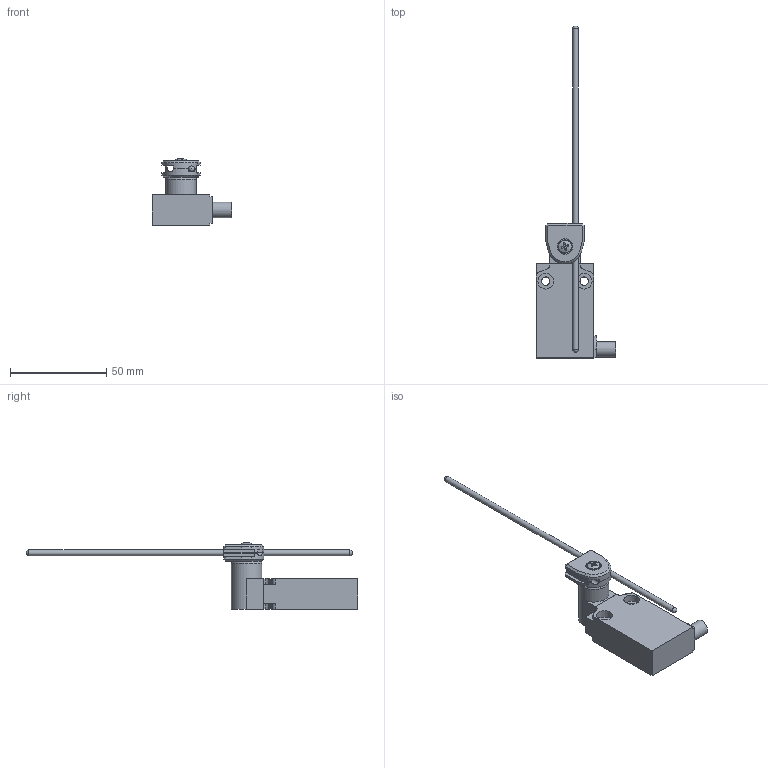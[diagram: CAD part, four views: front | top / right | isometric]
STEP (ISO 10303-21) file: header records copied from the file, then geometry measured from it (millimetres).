
FILE_DESCRIPTION(/* description */ (''),/* implementation_level */ '2;1');
FILE_NAME(/* name */ 'C:\Users\servizio.tecnico\Desktop\BERNSTEIN\3D\STP_EM1_G7140U.stp',/* time_stamp */ '2020-06-26T10:51:39+02:00',/* author */ ('servizio.tecnico'),/* organization */ (''),/* preprocessor_version */ 'ST-DEVELOPER v17',/* originating_system */ 'Autodesk Inventor 2019',/* authorisation */ '');
FILE_SCHEMA (('AUTOMOTIVE_DESIGN { 1 0 10303 214 3 1 1 }'));
Length unit declared in the file: millimetre
Products named in the file (9): STP_EM1_G41U; EM1G41; Product; G7120; vi2617pe; fu2065pe_3; asta inox; fu2065pe_3 INOX; fu 4120
Assembly tree (8 placements, depth 3):
  STP_EM1_G41U
    EM1G41
      Product
    G7120
      vi2617pe
      fu2065pe_3
      asta inox
      fu2065pe_3 INOX
      fu 4120
Bounding box: 41.5 x 172.86 x 34.7 mm (x, y, z)
Volume: 31259.5 mm3; surface area: 12803.5 mm2
Topology: 6 solids, 6 shells, 212 faces, 549 edges, 361 vertices
Faces by surface type: plane 135, cylinder 64, cone 4, bspline 3, torus 3, sphere 3
Full cylindrical faces by diameter (mm): 3 x1, 3.5 x22, 4.4 x2, 5 x3, 7 x1, 8 x3, 8.2 x4, 15.8 x1
Entity records: 9839 total; most frequent: CARTESIAN_POINT 4224, ORIENTED_EDGE 1094, DIRECTION 1091, EDGE_CURVE 547, AXIS2_PLACEMENT_3D 368, VERTEX_POINT 361, LINE 355, VECTOR 355
